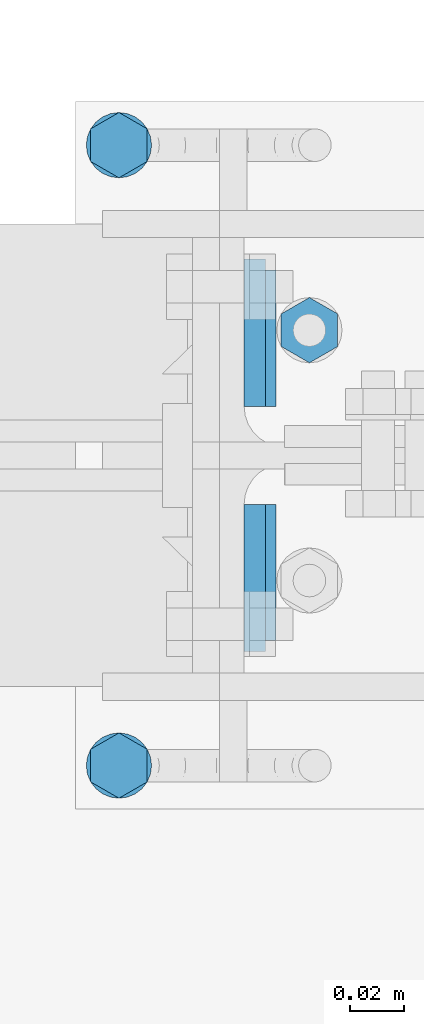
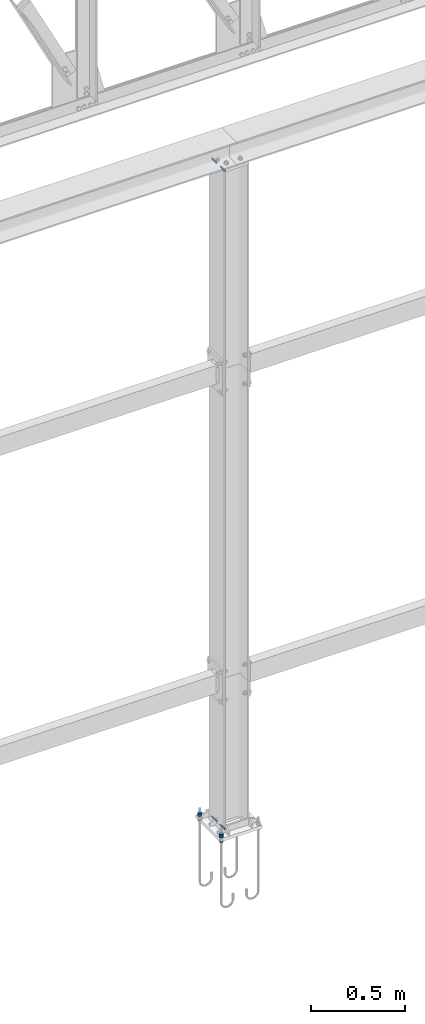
# One storey, part 198 of 251: 11 mechanical fasteners, 8 fasteners.
"""IFC4 building model written with IfcOpenShell, lengths in metres."""

from ifc_helpers import new_model, si_unit, frame, origin_with_axes, place, context, project, spatial, polyline, outline, extrude, type_object, element, save


model = new_model("IFC4")

# Units and contexts
model_context = context("Model", 3, precision=1e-05, world=origin_with_axes())
ifc_project = project(units=[si_unit("LENGTHUNIT", "METRE"), si_unit("AREAUNIT", "SQUARE_METRE"), si_unit("VOLUMEUNIT", "CUBIC_METRE"), si_unit("MASSUNIT", "GRAM", prefix="KILO"), si_unit("TIMEUNIT", "SECOND"), si_unit("PLANEANGLEUNIT", "RADIAN"), si_unit("SOLIDANGLEUNIT", "STERADIAN"), si_unit("THERMODYNAMICTEMPERATUREUNIT", "DEGREE_CELSIUS")], contexts=[model_context])

# Site, building, storey
placement_1 = place(None, origin_with_axes())
site = spatial("IfcSite", under=ifc_project, at=placement_1, Name="Italia", CompositionType="ELEMENT")
building = spatial("IfcBuilding", under=site, at=placement_1, Name="Deposito", CompositionType="ELEMENT")
storey = spatial("IfcBuildingStorey", under=building, at=placement_1, Name="Storey 0", CompositionType="ELEMENT", Elevation=0.0)

# Fasteners
fastener_type_1 = type_object("IfcFastenerType", Name="Collegamenti 0068_-006 0074_-007", PredefinedType="WELD")
placement_2 = place(placement_1, origin_with_axes())
fastener_1_placement = place(placement_2, origin_with_axes())
element("IfcFastener", 1, at=fastener_1_placement, inside=storey, type_object=fastener_type_1, Name="Collegamenti 0068_-006 0074_-007", context=model_context, shape_type="SweptSolid", body=[
    extrude(outline(polyline([(0.0, 0.0), (0.0118074, 0.0121734), (0.0118074, 0.0), (0.0, 0.0)])), frame((10.8598, 20.018, 0.06995), z_axis=(0.0, 1.0, 0.0), x_axis=(-1.0, 0.0, 0.0)), (0.0, 0.0, 1.0), 0.0501003),
])
fastener_type_2 = type_object("IfcFastenerType", Name="Collegamenti 0068_-006 0074_-007", PredefinedType="WELD")
fastener_2_placement = place(placement_2, origin_with_axes())
element("IfcFastener", 2, at=fastener_2_placement, inside=storey, type_object=fastener_type_2, Name="Collegamenti 0068_-006 0074_-007", context=model_context, shape_type="SweptSolid", body=[
    extrude(outline(polyline([(0.0, 0.0), (0.0118074, 0.0121734), (0.0118074, 0.0), (0.0, 0.0)])), frame((10.8598, 19.9319, 0.06995), z_axis=(0.0, 1.0, 0.0), x_axis=(-1.0, 0.0, 0.0)), (0.0, 0.0, 1.0), 0.0501003),
])
fastener_type_3 = type_object("IfcFastenerType", Name="Collegamenti 0068_-006 0074_-007", PredefinedType="WELD")
fastener_3_placement = place(placement_2, origin_with_axes())
element("IfcFastener", 3, at=fastener_3_placement, inside=storey, type_object=fastener_type_3, Name="Collegamenti 0068_-006 0074_-007", context=model_context, shape_type="SweptSolid", body=[
    extrude(outline(polyline([(0.0, 0.0), (0.0118074, 0.0121734), (0.0118074, 0.0), (0.0, 0.0)])), frame((10.8598, 20.018, 0.06995), z_axis=(0.0, 1.0, 0.0), x_axis=(-1.0, 0.0, 0.0)), (0.0, 0.0, 1.0), 0.0501003),
])
fastener_type_4 = type_object("IfcFastenerType", Name="Collegamenti 0068_-006 0074_-007", PredefinedType="WELD")
fastener_4_placement = place(placement_2, origin_with_axes())
element("IfcFastener", 4, at=fastener_4_placement, inside=storey, type_object=fastener_type_4, Name="Collegamenti 0068_-006 0074_-007", context=model_context, shape_type="SweptSolid", body=[
    extrude(outline(polyline([(0.0, 0.0), (0.0118074, 0.0121734), (0.0118074, 0.0), (0.0, 0.0)])), frame((10.8598, 19.9319, 0.06995), z_axis=(0.0, 1.0, 0.0), x_axis=(-1.0, 0.0, 0.0)), (0.0, 0.0, 1.0), 0.0501003),
])

# Mechanical fasteners
mechanical_fastener_type_1 = type_object("IfcMechanicalFastenerType", Name="Collegamenti 0068_-006 0074_-007", PredefinedType="BOLT")
mechanical_fastener_1_placement = place(placement_2, origin_with_axes())
element("IfcMechanicalFastener", 5, at=mechanical_fastener_1_placement, inside=storey, type_object=mechanical_fastener_type_1, Name="Collegamenti 0068_-006 0074_-007", NominalDiameter=0.0119992, context=model_context, shape_type="SweptSolid", body=[
    extrude(outline(polyline([(0.0, 0.0), (-0.012001, 0.0), (-0.0179996, 0.0103922), (-0.012001, 0.0207844), (0.0, 0.0207844), (0.00600052, 0.0103922), (0.0, 0.0)])), frame((10.8124, 19.892, 0.072), z_axis=(0.0, 0.0, 1.0), x_axis=(0.0, 1.0, 0.0)), (0.0, 0.0, 1.0), 0.0096),
])
mechanical_fastener_type_2 = type_object("IfcMechanicalFastenerType", Name="Collegamenti 0068_-006 0074_-007", PredefinedType="BOLT")
mechanical_fastener_2_placement = place(placement_2, origin_with_axes())
element("IfcMechanicalFastener", 6, at=mechanical_fastener_2_placement, inside=storey, type_object=mechanical_fastener_type_2, Name="Collegamenti 0068_-006 0074_-007", NominalDiameter=0.0119992, context=model_context, shape_type="SweptSolid", body=[
    extrude(outline(polyline([(0.0, 0.0), (-0.012001, 0.0), (-0.0179996, 0.0103922), (-0.012001, 0.0207844), (0.0, 0.0207844), (0.00600052, 0.0103922), (0.0, 0.0)])), frame((10.8124, 19.892, 0.0816), z_axis=(0.0, 0.0, 1.0), x_axis=(0.0, 1.0, 0.0)), (0.0, 0.0, 1.0), 0.0096),
])
mechanical_fastener_type_3 = type_object("IfcMechanicalFastenerType", Name="Collegamenti 0068_-006 0074_-007", PredefinedType="BOLT")
mechanical_fastener_3_placement = place(placement_2, origin_with_axes())
element("IfcMechanicalFastener", 7, at=mechanical_fastener_3_placement, inside=storey, type_object=mechanical_fastener_type_3, Name="Collegamenti 0068_-006 0074_-007", NominalDiameter=0.0119992, context=model_context, shape_type="SweptSolid", body=[
    extrude(outline(polyline([(0.0, 0.0), (-0.012001, 0.0), (-0.0179996, 0.0103922), (-0.012001, 0.0207844), (0.0, 0.0207844), (0.00600052, 0.0103922), (0.0, 0.0)])), frame((10.8124, 19.892, 0.0384), z_axis=(0.0, 0.0, 1.0), x_axis=(0.0, 1.0, 0.0)), (0.0, 0.0, 1.0), 0.0096),
])
mechanical_fastener_type_4 = type_object("IfcMechanicalFastenerType", Name="Collegamenti 0068_-006 0074_-007", PredefinedType="BOLT")
mechanical_fastener_4_placement = place(placement_2, origin_with_axes())
element("IfcMechanicalFastener", 8, at=mechanical_fastener_4_placement, inside=storey, type_object=mechanical_fastener_type_4, Name="Collegamenti 0068_-006 0074_-007", NominalDiameter=0.024, context=model_context, shape_type="SweptSolid", body=[
    extrude(outline(polyline([(0.0, 0.0), (-0.000408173, -0.00310612), (-0.00160599, -0.00599957), (-0.00351334, -0.00848484), (-0.00599861, -0.0103922), (-0.00889397, -0.011591), (-0.0119991, -0.0120001), (-0.0151043, -0.011591), (-0.0179996, -0.0103922), (-0.0204849, -0.00848484), (-0.0223923, -0.00599957), (-0.0235901, -0.00310612), (-0.0239983, 0.0), (-0.0235901, 0.00310612), (-0.0223923, 0.00599957), (-0.0204849, 0.00848484), (-0.0179996, 0.0103922), (-0.0151043, 0.011591), (-0.0119991, 0.0120001), (-0.00889397, 0.011591), (-0.00599861, 0.0103922), (-0.00351334, 0.00848484), (-0.00160599, 0.00599957), (-0.000408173, 0.00310612), (0.0, 0.0)])), frame((10.802, 19.898, 0.07), z_axis=(0.0, 0.0, 1.0), x_axis=(0.0, 1.0, 0.0)), (0.0, 0.0, 1.0), 0.002),
])
mechanical_fastener_type_5 = type_object("IfcMechanicalFastenerType", Name="Collegamenti 0068_-006 0074_-007", PredefinedType="BOLT")
mechanical_fastener_5_placement = place(placement_2, origin_with_axes())
element("IfcMechanicalFastener", 9, at=mechanical_fastener_5_placement, inside=storey, type_object=mechanical_fastener_type_5, Name="Collegamenti 0068_-006 0074_-007", NominalDiameter=0.024, context=model_context, shape_type="SweptSolid", body=[
    extrude(outline(polyline([(0.0, 0.0), (-0.000408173, -0.00310612), (-0.00160599, -0.00599957), (-0.00351334, -0.00848484), (-0.00599861, -0.0103922), (-0.00889397, -0.011591), (-0.0119991, -0.0120001), (-0.0151043, -0.011591), (-0.0179996, -0.0103922), (-0.0204849, -0.00848484), (-0.0223923, -0.00599957), (-0.0235901, -0.00310612), (-0.0239983, 0.0), (-0.0235901, 0.00310612), (-0.0223923, 0.00599957), (-0.0204849, 0.00848484), (-0.0179996, 0.0103922), (-0.0151043, 0.011591), (-0.0119991, 0.0120001), (-0.00889397, 0.011591), (-0.00599861, 0.0103922), (-0.00351334, 0.00848484), (-0.00160599, 0.00599957), (-0.000408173, 0.00310612), (0.0, 0.0)])), frame((10.802, 19.898, 0.048), z_axis=(0.0, 0.0, 1.0), x_axis=(0.0, 1.0, 0.0)), (0.0, 0.0, 1.0), 0.002),
])
mechanical_fastener_type_6 = type_object("IfcMechanicalFastenerType", Name="Collegamenti 0068_-006 0074_-007", PredefinedType="BOLT")
mechanical_fastener_6_placement = place(placement_2, origin_with_axes())
element("IfcMechanicalFastener", 10, at=mechanical_fastener_6_placement, inside=storey, type_object=mechanical_fastener_type_6, Name="Collegamenti 0068_-006 0074_-007", NominalDiameter=0.0119992, context=model_context, shape_type="SweptSolid", body=[
    extrude(outline(polyline([(0.0, 0.0), (-0.012001, 0.0), (-0.0180016, 0.0103922), (-0.012001, 0.0207844), (0.0, 0.0207844), (0.00599861, 0.0103922), (0.0, 0.0)])), frame((10.8124, 20.12, 0.072), z_axis=(0.0, 0.0, 1.0), x_axis=(0.0, 1.0, 0.0)), (0.0, 0.0, 1.0), 0.0096),
])
mechanical_fastener_type_7 = type_object("IfcMechanicalFastenerType", Name="Collegamenti 0068_-006 0074_-007", PredefinedType="BOLT")
mechanical_fastener_7_placement = place(placement_2, origin_with_axes())
element("IfcMechanicalFastener", 11, at=mechanical_fastener_7_placement, inside=storey, type_object=mechanical_fastener_type_7, Name="Collegamenti 0068_-006 0074_-007", NominalDiameter=0.0119992, context=model_context, shape_type="SweptSolid", body=[
    extrude(outline(polyline([(0.0, 0.0), (-0.012001, 0.0), (-0.0180016, 0.0103922), (-0.012001, 0.0207844), (0.0, 0.0207844), (0.00599861, 0.0103922), (0.0, 0.0)])), frame((10.8124, 20.12, 0.0816), z_axis=(0.0, 0.0, 1.0), x_axis=(0.0, 1.0, 0.0)), (0.0, 0.0, 1.0), 0.0096),
])
mechanical_fastener_type_8 = type_object("IfcMechanicalFastenerType", Name="Collegamenti 0068_-006 0074_-007", PredefinedType="BOLT")
mechanical_fastener_8_placement = place(placement_2, origin_with_axes())
element("IfcMechanicalFastener", 12, at=mechanical_fastener_8_placement, inside=storey, type_object=mechanical_fastener_type_8, Name="Collegamenti 0068_-006 0074_-007", NominalDiameter=0.0119992, context=model_context, shape_type="SweptSolid", body=[
    extrude(outline(polyline([(0.0, 0.0), (-0.012001, 0.0), (-0.0180016, 0.0103922), (-0.012001, 0.0207844), (0.0, 0.0207844), (0.00599861, 0.0103922), (0.0, 0.0)])), frame((10.8124, 20.12, 0.0384), z_axis=(0.0, 0.0, 1.0), x_axis=(0.0, 1.0, 0.0)), (0.0, 0.0, 1.0), 0.0096),
])
mechanical_fastener_type_9 = type_object("IfcMechanicalFastenerType", Name="Collegamenti 0068_-006 0074_-007", PredefinedType="BOLT")
mechanical_fastener_9_placement = place(placement_2, origin_with_axes())
element("IfcMechanicalFastener", 13, at=mechanical_fastener_9_placement, inside=storey, type_object=mechanical_fastener_type_9, Name="Collegamenti 0068_-006 0074_-007", NominalDiameter=0.024, context=model_context, shape_type="SweptSolid", body=[
    extrude(outline(polyline([(0.0, 0.0), (-0.000408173, -0.00310612), (-0.00160599, -0.00599957), (-0.00351334, -0.00848484), (-0.00599861, -0.0103922), (-0.00889397, -0.011591), (-0.0119991, -0.0120001), (-0.0151043, -0.011591), (-0.0179996, -0.0103922), (-0.0204849, -0.00848484), (-0.0223923, -0.00599957), (-0.0235901, -0.00310612), (-0.0239983, 0.0), (-0.0235901, 0.00310612), (-0.0223923, 0.00599957), (-0.0204849, 0.00848484), (-0.0179996, 0.0103922), (-0.0151043, 0.011591), (-0.0119991, 0.0120001), (-0.00889397, 0.011591), (-0.00599861, 0.0103922), (-0.00351334, 0.00848484), (-0.00160599, 0.00599957), (-0.000408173, 0.00310612), (0.0, 0.0)])), frame((10.802, 20.126, 0.07), z_axis=(0.0, 0.0, 1.0), x_axis=(0.0, 1.0, 0.0)), (0.0, 0.0, 1.0), 0.002),
])
mechanical_fastener_type_10 = type_object("IfcMechanicalFastenerType", Name="Collegamenti 0068_-006 0074_-007", PredefinedType="BOLT")
mechanical_fastener_10_placement = place(placement_2, origin_with_axes())
element("IfcMechanicalFastener", 14, at=mechanical_fastener_10_placement, inside=storey, type_object=mechanical_fastener_type_10, Name="Collegamenti 0068_-006 0074_-007", NominalDiameter=0.024, context=model_context, shape_type="SweptSolid", body=[
    extrude(outline(polyline([(0.0, 0.0), (-0.000408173, -0.00310612), (-0.00160599, -0.00599957), (-0.00351334, -0.00848484), (-0.00599861, -0.0103922), (-0.00889397, -0.011591), (-0.0119991, -0.0120001), (-0.0151043, -0.011591), (-0.0179996, -0.0103922), (-0.0204849, -0.00848484), (-0.0223923, -0.00599957), (-0.0235901, -0.00310612), (-0.0239983, 0.0), (-0.0235901, 0.00310612), (-0.0223923, 0.00599957), (-0.0204849, 0.00848484), (-0.0179996, 0.0103922), (-0.0151043, 0.011591), (-0.0119991, 0.0120001), (-0.00889397, 0.011591), (-0.00599861, 0.0103922), (-0.00351334, 0.00848484), (-0.00160599, 0.00599957), (-0.000408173, 0.00310612), (0.0, 0.0)])), frame((10.802, 20.126, 0.048), z_axis=(0.0, 0.0, 1.0), x_axis=(0.0, 1.0, 0.0)), (0.0, 0.0, 1.0), 0.002),
])

# Fasteners
fastener_type_5 = type_object("IfcFastenerType", Name="Collegamenti 7068_-014 7074_-015", PredefinedType="WELD")
fastener_5_placement = place(placement_2, origin_with_axes())
element("IfcFastener", 15, at=fastener_5_placement, inside=storey, type_object=fastener_type_5, Name="Collegamenti 7068_-014 7074_-015", context=model_context, shape_type="SweptSolid", body=[
    extrude(outline(polyline([(0.0, 0.0), (-0.00792789, -0.00817347), (-0.00792789, 0.0), (0.0, 0.0)])), frame((10.8559, 20.0721, 4.33305), z_axis=(0.0, -1.0, 0.0), x_axis=(1.0, 0.0, 0.0)), (0.0, 0.0, 1.0), 0.0541),
])
fastener_type_6 = type_object("IfcFastenerType", Name="Collegamenti 7068_-014 7074_-015", PredefinedType="WELD")
fastener_6_placement = place(placement_2, origin_with_axes())
element("IfcFastener", 16, at=fastener_6_placement, inside=storey, type_object=fastener_type_6, Name="Collegamenti 7068_-014 7074_-015", context=model_context, shape_type="SweptSolid", body=[
    extrude(outline(polyline([(0.0, 0.0), (-0.00792789, -0.00817347), (-0.00792789, 0.0), (0.0, 0.0)])), frame((10.8559, 19.982, 4.33305), z_axis=(0.0, -1.0, 0.0), x_axis=(1.0, 0.0, 0.0)), (0.0, 0.0, 1.0), 0.0541),
])
fastener_type_7 = type_object("IfcFastenerType", Name="Collegamenti 7068_-014 7074_-015", PredefinedType="WELD")
fastener_7_placement = place(placement_2, origin_with_axes())
element("IfcFastener", 17, at=fastener_7_placement, inside=storey, type_object=fastener_type_7, Name="Collegamenti 7068_-014 7074_-015", context=model_context, shape_type="SweptSolid", body=[
    extrude(outline(polyline([(0.0, 0.0), (-0.00792789, -0.00817347), (-0.00792789, 0.0), (0.0, 0.0)])), frame((10.8559, 20.0721, 4.33305), z_axis=(0.0, -1.0, 0.0), x_axis=(1.0, 0.0, 0.0)), (0.0, 0.0, 1.0), 0.0541),
])
fastener_type_8 = type_object("IfcFastenerType", Name="Collegamenti 7068_-014 7074_-015", PredefinedType="WELD")
fastener_8_placement = place(placement_2, origin_with_axes())
element("IfcFastener", 18, at=fastener_8_placement, inside=storey, type_object=fastener_type_8, Name="Collegamenti 7068_-014 7074_-015", context=model_context, shape_type="SweptSolid", body=[
    extrude(outline(polyline([(0.0, 0.0), (-0.00792789, -0.00817347), (-0.00792789, 0.0), (0.0, 0.0)])), frame((10.8559, 19.982, 4.33305), z_axis=(0.0, -1.0, 0.0), x_axis=(1.0, 0.0, 0.0)), (0.0, 0.0, 1.0), 0.0541),
])

# Mechanical fastener
mechanical_fastener_type_11 = type_object("IfcMechanicalFastenerType", Name="Collegamenti 7068_-014 7074_-015", PredefinedType="BOLT")
mechanical_fastener_11_placement = place(placement_2, origin_with_axes())
element("IfcMechanicalFastener", 19, at=mechanical_fastener_11_placement, inside=storey, type_object=mechanical_fastener_type_11, Name="Collegamenti 7068_-014 7074_-015", NominalDiameter=0.0119991, context=model_context, shape_type="SweptSolid", body=[
    extrude(outline(polyline([(0.0, 0.0), (0.0119991, 0.0), (0.0179996, -0.0103922), (0.0119991, -0.0207844), (0.0, -0.0207844), (-0.00600052, -0.0103922), (0.0, 0.0)])), frame((10.8824, 20.04, 4.333), z_axis=(0.0, 0.0, -1.0), x_axis=(0.0, 1.0, 0.0)), (0.0, 0.0, 1.0), 0.00960016),
])

save(model, "model.ifc")
